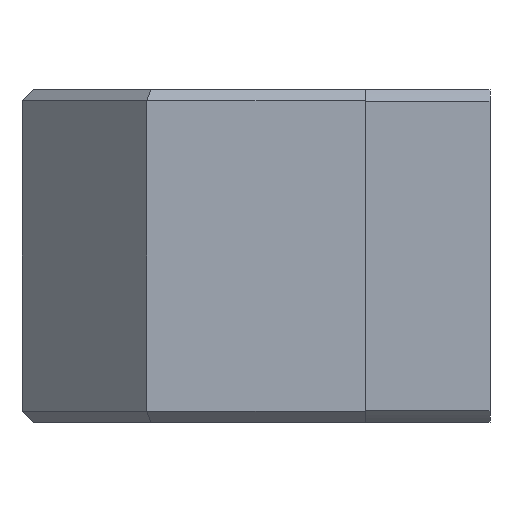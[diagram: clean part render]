
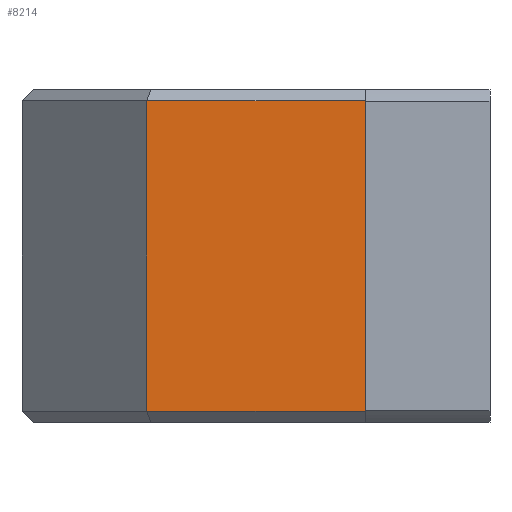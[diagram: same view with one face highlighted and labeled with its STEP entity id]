
A CAD part, front view. The second image highlights one B-rep face of the part: STEP entity #8214.
In plain terms, the highlighted planar face has unit normal (0, -1, 0).
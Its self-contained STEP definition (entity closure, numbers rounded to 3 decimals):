
#1064 = VERTEX_POINT ( 'NONE', #30732 ) ;
#1164 = LINE ( 'NONE', #14360, #14420 ) ;
#3654 = CARTESIAN_POINT ( 'NONE',  ( 0., 0., 120. ) ) ;
#6087 = DIRECTION ( 'NONE',  ( 0., 0., -1. ) ) ;
#6125 = DIRECTION ( 'NONE',  ( 0., 0., 1. ) ) ;
#8214 = ADVANCED_FACE ( 'NONE', ( #23597 ), #25869, .F. ) ;
#9159 = VERTEX_POINT ( 'NONE', #15501 ) ;
#10441 = EDGE_CURVE ( 'NONE', #1064, #19470, #13924, .T. ) ;
#10868 = ORIENTED_EDGE ( 'NONE', *, *, #30058, .T. ) ;
#11922 = EDGE_CURVE ( 'NONE', #9159, #19470, #32065, .T. ) ;
#13924 = LINE ( 'NONE', #24959, #19093 ) ;
#14360 = CARTESIAN_POINT ( 'NONE',  ( 0., 0., 116. ) ) ;
#14420 = VECTOR ( 'NONE', #31628, 1000. ) ;
#15261 = LINE ( 'NONE', #24783, #28356 ) ;
#15501 = CARTESIAN_POINT ( 'NONE',  ( 45., 0., 116. ) ) ;
#15903 = CARTESIAN_POINT ( 'NONE',  ( 45., 0., 120. ) ) ;
#17116 = EDGE_LOOP ( 'NONE', ( #21910, #10868, #28349, #28844 ) ) ;
#19093 = VECTOR ( 'NONE', #27440, 1000. ) ;
#19470 = VERTEX_POINT ( 'NONE', #27995 ) ;
#21029 = DIRECTION ( 'NONE',  ( 0., 1., 0. ) ) ;
#21910 = ORIENTED_EDGE ( 'NONE', *, *, #22500, .T. ) ;
#22500 = EDGE_CURVE ( 'NONE', #1064, #24868, #15261, .T. ) ;
#22917 = CARTESIAN_POINT ( 'NONE',  ( 124., 0., 116. ) ) ;
#23597 = FACE_OUTER_BOUND ( 'NONE', #17116, .T. ) ;
#24783 = CARTESIAN_POINT ( 'NONE',  ( 124., 0., 0. ) ) ;
#24868 = VERTEX_POINT ( 'NONE', #22917 ) ;
#24959 = CARTESIAN_POINT ( 'NONE',  ( 0., 0., 4. ) ) ;
#25460 = VECTOR ( 'NONE', #6087, 1000. ) ;
#25869 = PLANE ( 'NONE',  #26247 ) ;
#26247 = AXIS2_PLACEMENT_3D ( 'NONE', #3654, #21029, #6125 ) ;
#27440 = DIRECTION ( 'NONE',  ( -1., 0., 0. ) ) ;
#27995 = CARTESIAN_POINT ( 'NONE',  ( 45., 0., 4. ) ) ;
#28349 = ORIENTED_EDGE ( 'NONE', *, *, #11922, .T. ) ;
#28356 = VECTOR ( 'NONE', #29532, 1000. ) ;
#28844 = ORIENTED_EDGE ( 'NONE', *, *, #10441, .F. ) ;
#29532 = DIRECTION ( 'NONE',  ( 0., 0., 1. ) ) ;
#30058 = EDGE_CURVE ( 'NONE', #24868, #9159, #1164, .T. ) ;
#30732 = CARTESIAN_POINT ( 'NONE',  ( 124., 0., 4. ) ) ;
#31628 = DIRECTION ( 'NONE',  ( -1., 0., 0. ) ) ;
#32065 = LINE ( 'NONE', #15903, #25460 ) ;
